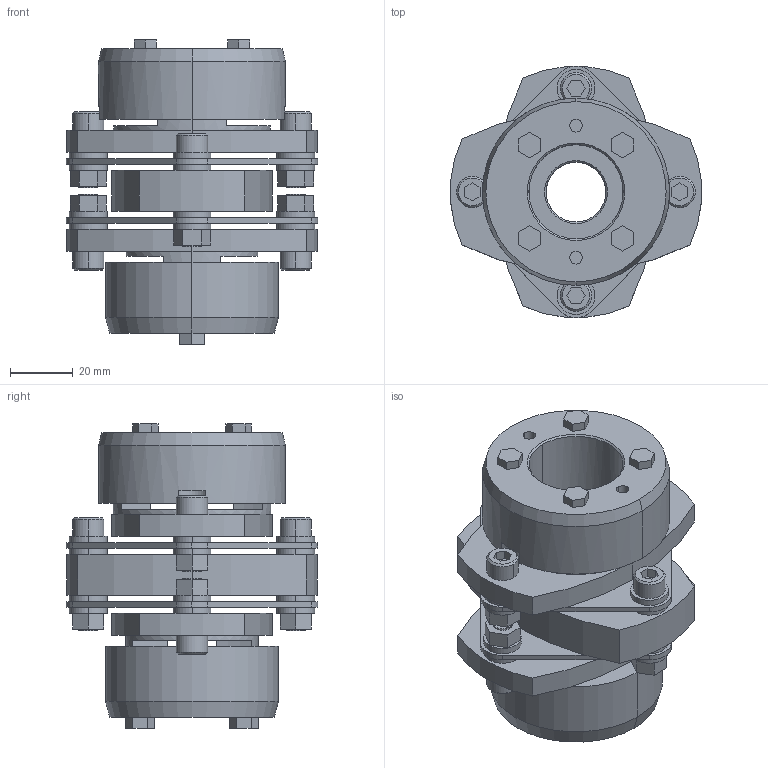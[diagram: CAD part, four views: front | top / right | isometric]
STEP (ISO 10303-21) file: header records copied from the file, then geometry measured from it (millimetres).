
FILE_DESCRIPTION((''),'2;1');
FILE_NAME('LCD-80T7-19×30.stp','2011-09-15T13:41:28',(''),(''),'AutoCAD STEP 2000i','AutoCAD 2000i',', , ');
FILE_SCHEMA(('CONFIG_CONTROL_DESIGN'));
Length unit declared in the file: millimetre
Products named in the file (11): LCD-80T7-19×30; 忣兜1; LC80T7-T030; LC80T7-T028; LC80T7-T024; LC80T7-T022; LC80T7-T019-1; LC80T7-T019; LC80T7-T017-1; LC80T7-T017; LCD80-ITA
Assembly tree (10 placements, depth 2):
  LCD-80T7-19×30
    忣兜1
    LC80T7-T030
    LC80T7-T028
    LC80T7-T024
    LC80T7-T022
    LC80T7-T019-1
    LC80T7-T019
    LC80T7-T017-1
    LC80T7-T017
    LCD80-ITA
Bounding box: 80 x 79.95 x 96.8 mm (x, y, z)
Volume: 189232.9 mm3; surface area: 58596 mm2
Topology: 1 solids, 1 shells, 324 faces, 792 edges, 520 vertices
Faces by surface type: plane 178, cylinder 122, cone 24
Entity records: 9859 total; most frequent: DIRECTION 1750, CARTESIAN_POINT 1647, ORIENTED_EDGE 1584, EDGE_CURVE 792, AXIS2_PLACEMENT_3D 623, VERTEX_POINT 520, VECTOR 504, LINE 504
